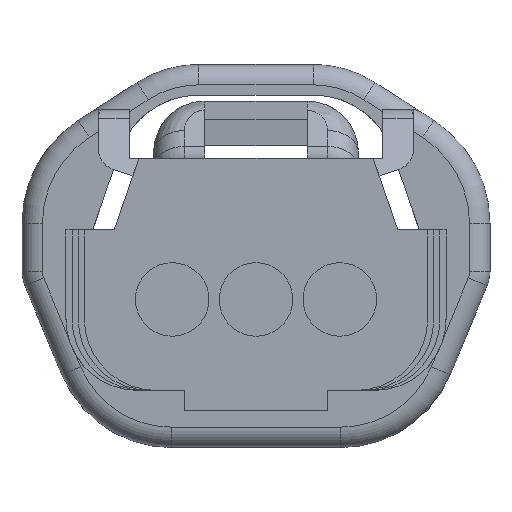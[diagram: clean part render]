
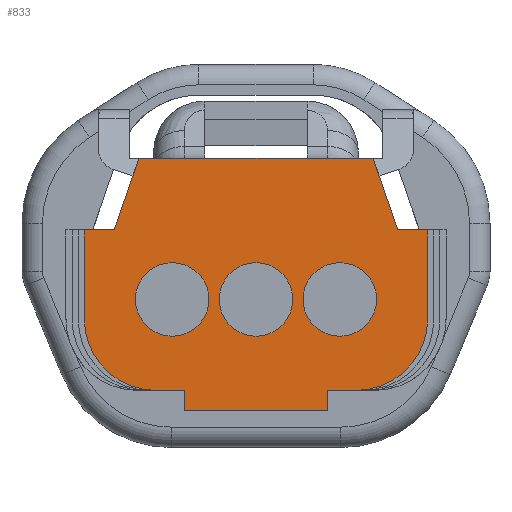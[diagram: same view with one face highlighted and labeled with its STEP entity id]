
A CAD part, left-side view. The second image highlights one B-rep face of the part: STEP entity #833.
In plain terms, the highlighted planar face has unit normal (-1, 0, 0).
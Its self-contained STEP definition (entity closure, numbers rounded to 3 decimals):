
#360=AXIS2_PLACEMENT_3D('Circle Axis2P3D',#358,#359,$) ;
#688=AXIS2_PLACEMENT_3D('Plane Axis2P3D',#685,#686,#687) ;
#706=AXIS2_PLACEMENT_3D('Circle Axis2P3D',#704,#705,$) ;
#781=AXIS2_PLACEMENT_3D('Circle Axis2P3D',#779,#780,$) ;
#790=AXIS2_PLACEMENT_3D('Circle Axis2P3D',#788,#789,$) ;
#799=AXIS2_PLACEMENT_3D('Circle Axis2P3D',#797,#798,$) ;
#808=AXIS2_PLACEMENT_3D('Circle Axis2P3D',#806,#807,$) ;
#817=AXIS2_PLACEMENT_3D('Circle Axis2P3D',#815,#816,$) ;
#826=AXIS2_PLACEMENT_3D('Circle Axis2P3D',#824,#825,$) ;
#318=CARTESIAN_POINT('Line Origine',(-10.8,-8.4,1.275)) ;
#322=CARTESIAN_POINT('Vertex',(-10.8,-8.4,3.45)) ;
#324=CARTESIAN_POINT('Vertex',(-10.8,-8.4,-0.9)) ;
#358=CARTESIAN_POINT('Axis2P3D Location',(-10.8,-4.9,-0.9)) ;
#362=CARTESIAN_POINT('Vertex',(-10.8,-4.9,-4.4)) ;
#656=CARTESIAN_POINT('Vertex',(-10.8,8.4,3.45)) ;
#670=CARTESIAN_POINT('Vertex',(-10.8,8.4,-0.9)) ;
#673=CARTESIAN_POINT('Line Origine',(-10.8,8.4,1.275)) ;
#685=CARTESIAN_POINT('Axis2P3D Location',(-10.8,0.,0.)) ;
#690=CARTESIAN_POINT('Line Origine',(-10.8,6.332,5.2)) ;
#694=CARTESIAN_POINT('Vertex',(-10.8,6.934,3.45)) ;
#696=CARTESIAN_POINT('Vertex',(-10.8,5.73,6.95)) ;
#699=CARTESIAN_POINT('Line Origine',(-10.8,7.667,3.45)) ;
#704=CARTESIAN_POINT('Axis2P3D Location',(-10.8,4.9,-0.9)) ;
#708=CARTESIAN_POINT('Vertex',(-10.8,4.9,-4.4)) ;
#711=CARTESIAN_POINT('Line Origine',(-10.8,4.2,-4.4)) ;
#715=CARTESIAN_POINT('Vertex',(-10.8,3.5,-4.4)) ;
#718=CARTESIAN_POINT('Line Origine',(-10.8,3.5,-4.9)) ;
#722=CARTESIAN_POINT('Vertex',(-10.8,3.5,-5.4)) ;
#725=CARTESIAN_POINT('Line Origine',(-10.8,0.,-5.4)) ;
#729=CARTESIAN_POINT('Vertex',(-10.8,-3.5,-5.4)) ;
#732=CARTESIAN_POINT('Line Origine',(-10.8,-3.5,-4.9)) ;
#736=CARTESIAN_POINT('Vertex',(-10.8,-3.5,-4.4)) ;
#739=CARTESIAN_POINT('Line Origine',(-10.8,-4.2,-4.4)) ;
#744=CARTESIAN_POINT('Line Origine',(-10.8,-7.667,3.45)) ;
#748=CARTESIAN_POINT('Vertex',(-10.8,-6.934,3.45)) ;
#751=CARTESIAN_POINT('Line Origine',(-10.8,-6.332,5.2)) ;
#755=CARTESIAN_POINT('Vertex',(-10.8,-5.73,6.95)) ;
#758=CARTESIAN_POINT('Line Origine',(-10.8,0.,6.95)) ;
#779=CARTESIAN_POINT('Axis2P3D Location',(-10.8,4.1,0.05)) ;
#783=CARTESIAN_POINT('Vertex',(-10.8,2.3,0.05)) ;
#785=CARTESIAN_POINT('Vertex',(-10.8,5.9,0.05)) ;
#788=CARTESIAN_POINT('Axis2P3D Location',(-10.8,4.1,0.05)) ;
#797=CARTESIAN_POINT('Axis2P3D Location',(-10.8,0.,0.05)) ;
#801=CARTESIAN_POINT('Vertex',(-10.8,-1.8,0.05)) ;
#803=CARTESIAN_POINT('Vertex',(-10.8,1.8,0.05)) ;
#806=CARTESIAN_POINT('Axis2P3D Location',(-10.8,0.,0.05)) ;
#815=CARTESIAN_POINT('Axis2P3D Location',(-10.8,-4.1,0.05)) ;
#819=CARTESIAN_POINT('Vertex',(-10.8,-5.9,0.05)) ;
#821=CARTESIAN_POINT('Vertex',(-10.8,-2.3,0.05)) ;
#824=CARTESIAN_POINT('Axis2P3D Location',(-10.8,-4.1,0.05)) ;
#319=DIRECTION('Vector Direction',(0.,0.,-1.)) ;
#359=DIRECTION('Axis2P3D Direction',(-1.,0.,0.)) ;
#674=DIRECTION('Vector Direction',(0.,0.,-1.)) ;
#686=DIRECTION('Axis2P3D Direction',(1.,0.,0.)) ;
#687=DIRECTION('Axis2P3D XDirection',(0.,1.,0.)) ;
#691=DIRECTION('Vector Direction',(0.,-0.325,0.946)) ;
#700=DIRECTION('Vector Direction',(0.,1.,0.)) ;
#705=DIRECTION('Axis2P3D Direction',(1.,0.,0.)) ;
#712=DIRECTION('Vector Direction',(0.,1.,0.)) ;
#719=DIRECTION('Vector Direction',(0.,0.,1.)) ;
#726=DIRECTION('Vector Direction',(0.,1.,0.)) ;
#733=DIRECTION('Vector Direction',(0.,0.,1.)) ;
#740=DIRECTION('Vector Direction',(0.,1.,0.)) ;
#745=DIRECTION('Vector Direction',(0.,-1.,0.)) ;
#752=DIRECTION('Vector Direction',(0.,0.325,0.946)) ;
#759=DIRECTION('Vector Direction',(0.,-1.,0.)) ;
#780=DIRECTION('Axis2P3D Direction',(1.,0.,0.)) ;
#789=DIRECTION('Axis2P3D Direction',(1.,0.,0.)) ;
#798=DIRECTION('Axis2P3D Direction',(1.,0.,0.)) ;
#807=DIRECTION('Axis2P3D Direction',(1.,0.,0.)) ;
#816=DIRECTION('Axis2P3D Direction',(1.,0.,0.)) ;
#825=DIRECTION('Axis2P3D Direction',(1.,0.,0.)) ;
#320=VECTOR('Line Direction',#319,1.) ;
#675=VECTOR('Line Direction',#674,1.) ;
#692=VECTOR('Line Direction',#691,1.) ;
#701=VECTOR('Line Direction',#700,1.) ;
#713=VECTOR('Line Direction',#712,1.) ;
#720=VECTOR('Line Direction',#719,1.) ;
#727=VECTOR('Line Direction',#726,1.) ;
#734=VECTOR('Line Direction',#733,1.) ;
#741=VECTOR('Line Direction',#740,1.) ;
#746=VECTOR('Line Direction',#745,1.) ;
#753=VECTOR('Line Direction',#752,1.) ;
#760=VECTOR('Line Direction',#759,1.) ;
#764=ORIENTED_EDGE('',*,*,#698,.F.) ;
#765=ORIENTED_EDGE('',*,*,#703,.T.) ;
#766=ORIENTED_EDGE('',*,*,#677,.T.) ;
#767=ORIENTED_EDGE('',*,*,#710,.F.) ;
#768=ORIENTED_EDGE('',*,*,#717,.F.) ;
#769=ORIENTED_EDGE('',*,*,#724,.F.) ;
#770=ORIENTED_EDGE('',*,*,#731,.F.) ;
#771=ORIENTED_EDGE('',*,*,#738,.T.) ;
#772=ORIENTED_EDGE('',*,*,#743,.F.) ;
#773=ORIENTED_EDGE('',*,*,#364,.F.) ;
#774=ORIENTED_EDGE('',*,*,#326,.F.) ;
#775=ORIENTED_EDGE('',*,*,#750,.F.) ;
#776=ORIENTED_EDGE('',*,*,#757,.T.) ;
#777=ORIENTED_EDGE('',*,*,#762,.F.) ;
#794=ORIENTED_EDGE('',*,*,#787,.T.) ;
#795=ORIENTED_EDGE('',*,*,#792,.T.) ;
#812=ORIENTED_EDGE('',*,*,#805,.T.) ;
#813=ORIENTED_EDGE('',*,*,#810,.T.) ;
#830=ORIENTED_EDGE('',*,*,#823,.T.) ;
#831=ORIENTED_EDGE('',*,*,#828,.T.) ;
#796=FACE_BOUND('',#793,.T.) ;
#814=FACE_BOUND('',#811,.T.) ;
#832=FACE_BOUND('',#829,.T.) ;
#833=ADVANCED_FACE('\X2\FF8EFF9EFF83FF9EFF68FF70\X0\.3',(#778,#796,#814,#832),#689,.F.) ;
#361=CIRCLE('generated circle',#360,3.5) ;
#707=CIRCLE('generated circle',#706,3.5) ;
#782=CIRCLE('generated circle',#781,1.8) ;
#791=CIRCLE('generated circle',#790,1.8) ;
#800=CIRCLE('generated circle',#799,1.8) ;
#809=CIRCLE('generated circle',#808,1.8) ;
#818=CIRCLE('generated circle',#817,1.8) ;
#827=CIRCLE('generated circle',#826,1.8) ;
#326=EDGE_CURVE('',#323,#325,#321,.T.) ;
#364=EDGE_CURVE('',#325,#363,#361,.F.) ;
#677=EDGE_CURVE('',#657,#671,#676,.T.) ;
#698=EDGE_CURVE('',#695,#697,#693,.T.) ;
#703=EDGE_CURVE('',#695,#657,#702,.T.) ;
#710=EDGE_CURVE('',#709,#671,#707,.T.) ;
#717=EDGE_CURVE('',#716,#709,#714,.T.) ;
#724=EDGE_CURVE('',#723,#716,#721,.T.) ;
#731=EDGE_CURVE('',#730,#723,#728,.T.) ;
#738=EDGE_CURVE('',#730,#737,#735,.T.) ;
#743=EDGE_CURVE('',#363,#737,#742,.T.) ;
#750=EDGE_CURVE('',#749,#323,#747,.T.) ;
#757=EDGE_CURVE('',#749,#756,#754,.T.) ;
#762=EDGE_CURVE('',#697,#756,#761,.T.) ;
#787=EDGE_CURVE('',#784,#786,#782,.T.) ;
#792=EDGE_CURVE('',#786,#784,#791,.T.) ;
#805=EDGE_CURVE('',#802,#804,#800,.T.) ;
#810=EDGE_CURVE('',#804,#802,#809,.T.) ;
#823=EDGE_CURVE('',#820,#822,#818,.T.) ;
#828=EDGE_CURVE('',#822,#820,#827,.T.) ;
#763=EDGE_LOOP('',(#764,#765,#766,#767,#768,#769,#770,#771,#772,#773,#774,#775,#776,#777)) ;
#793=EDGE_LOOP('',(#794,#795)) ;
#811=EDGE_LOOP('',(#812,#813)) ;
#829=EDGE_LOOP('',(#830,#831)) ;
#778=FACE_OUTER_BOUND('',#763,.T.) ;
#321=LINE('Line',#318,#320) ;
#676=LINE('Line',#673,#675) ;
#693=LINE('Line',#690,#692) ;
#702=LINE('Line',#699,#701) ;
#714=LINE('Line',#711,#713) ;
#721=LINE('Line',#718,#720) ;
#728=LINE('Line',#725,#727) ;
#735=LINE('Line',#732,#734) ;
#742=LINE('Line',#739,#741) ;
#747=LINE('Line',#744,#746) ;
#754=LINE('Line',#751,#753) ;
#761=LINE('Line',#758,#760) ;
#689=PLANE('',#688) ;
#323=VERTEX_POINT('',#322) ;
#325=VERTEX_POINT('',#324) ;
#363=VERTEX_POINT('',#362) ;
#657=VERTEX_POINT('',#656) ;
#671=VERTEX_POINT('',#670) ;
#695=VERTEX_POINT('',#694) ;
#697=VERTEX_POINT('',#696) ;
#709=VERTEX_POINT('',#708) ;
#716=VERTEX_POINT('',#715) ;
#723=VERTEX_POINT('',#722) ;
#730=VERTEX_POINT('',#729) ;
#737=VERTEX_POINT('',#736) ;
#749=VERTEX_POINT('',#748) ;
#756=VERTEX_POINT('',#755) ;
#784=VERTEX_POINT('',#783) ;
#786=VERTEX_POINT('',#785) ;
#802=VERTEX_POINT('',#801) ;
#804=VERTEX_POINT('',#803) ;
#820=VERTEX_POINT('',#819) ;
#822=VERTEX_POINT('',#821) ;
